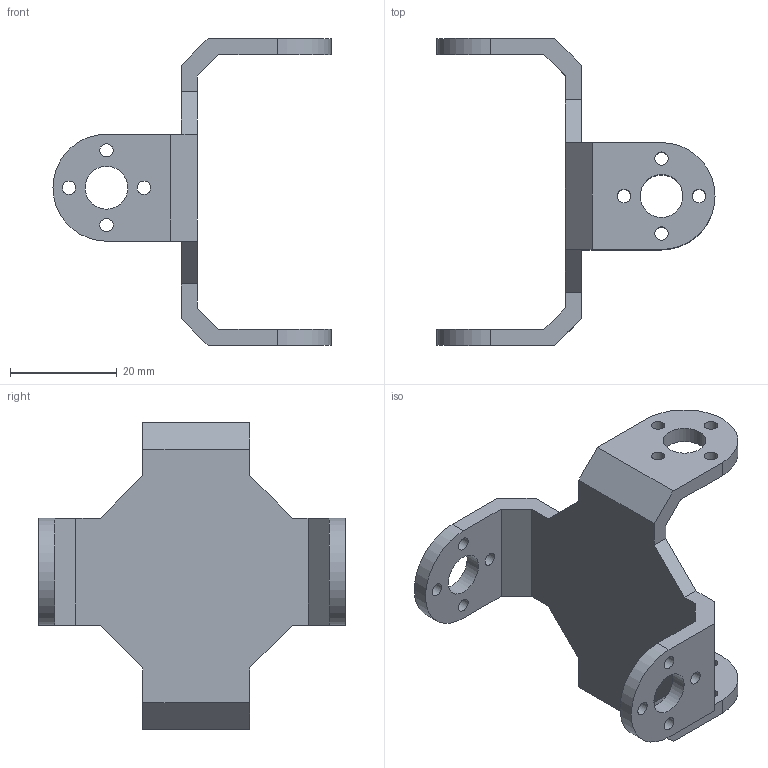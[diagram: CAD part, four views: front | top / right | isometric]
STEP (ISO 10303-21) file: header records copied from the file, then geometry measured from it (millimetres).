
FILE_DESCRIPTION(/* description */ (''),/* implementation_level */ '2;1');
FILE_NAME(/* name */ 'E:/云同步/我的坚果云/项目/SERVO DRIVER WITH ESP32/模型/A1 v3.step',/* time_stamp */ '2022-01-21T19:21:50+08:00',/* author */ (''),/* organization */ (''),/* preprocessor_version */ 'ST-DEVELOPER v18.1',/* originating_system */ 'Autodesk Translation Framework v10.10.0.1391',/* authorisation */ '');
FILE_SCHEMA (('AUTOMOTIVE_DESIGN { 1 0 10303 214 3 1 1 }'));
Length unit declared in the file: millimetre
Products named in the file (1): A1
Bounding box: 52 x 57.4 x 57.4 mm (x, y, z)
Volume: 10238.2 mm3; surface area: 8403.8 mm2
Topology: 1 solids, 1 shells, 58 faces, 164 edges, 108 vertices
Faces by surface type: plane 34, cylinder 24
Full cylindrical faces by diameter (mm): 2.5 x16, 8 x4
Entity records: 1986 total; most frequent: CARTESIAN_POINT 331, DIRECTION 330, ORIENTED_EDGE 328, EDGE_CURVE 164, LINE 116, VECTOR 116, VERTEX_POINT 108, AXIS2_PLACEMENT_3D 107
